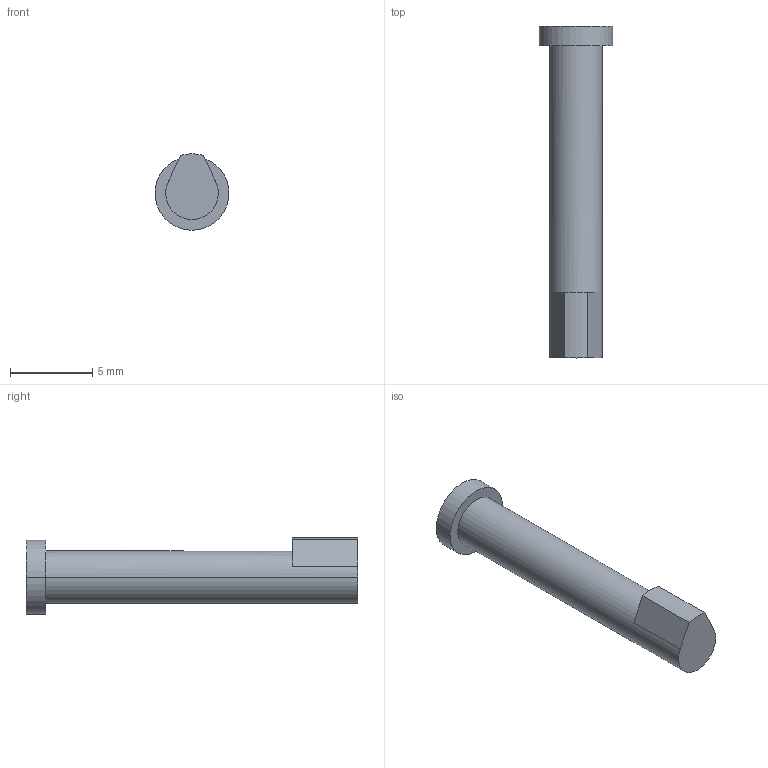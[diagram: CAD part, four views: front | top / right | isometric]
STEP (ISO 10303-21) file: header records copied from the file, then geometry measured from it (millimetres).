
FILE_DESCRIPTION((''),'2;1');
FILE_NAME('64001221_BUTTON_RESET_IMX6_SBC','2015-02-04T',('mlarsen'),(''),'PRO/ENGINEER BY PARAMETRIC TECHNOLOGY CORPORATION, 2014090','PRO/ENGINEER BY PARAMETRIC TECHNOLOGY CORPORATION, 2014090','');
FILE_SCHEMA(('CONFIG_CONTROL_DESIGN'));
Length unit declared in the file: millimetre
Products named in the file (1): 64001221_BUTTON_RESET_IMX6_SBC
Bounding box: 4.5 x 20.2 x 4.65 mm (x, y, z)
Volume: 176.9 mm3; surface area: 248.6 mm2
Topology: 1 solids, 1 shells, 12 faces, 28 edges, 17 vertices
Faces by surface type: plane 5, cylinder 5, sphere 2
Entity records: 374 total; most frequent: DIRECTION 64, CARTESIAN_POINT 55, ORIENTED_EDGE 52, AXIS2_PLACEMENT_3D 26, EDGE_CURVE 26, VERTEX_POINT 17, CIRCLE 14, EDGE_LOOP 13
